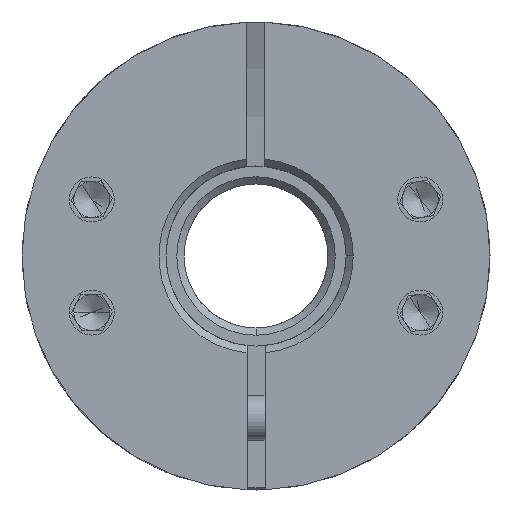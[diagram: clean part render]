
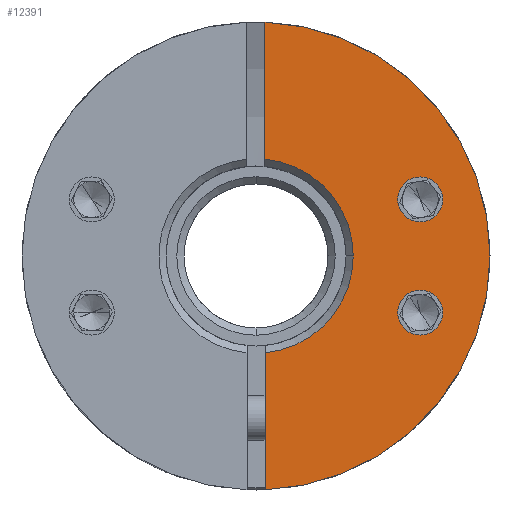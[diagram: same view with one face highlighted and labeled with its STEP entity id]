
A CAD part, front view. The second image highlights one B-rep face of the part: STEP entity #12391.
In plain terms, the highlighted planar face has unit normal (0, -1, 0).
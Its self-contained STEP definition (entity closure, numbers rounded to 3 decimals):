
#756 = CARTESIAN_POINT ( 'NONE',  ( 1.755, -26.289, 0. ) ) ;
#816 = EDGE_CURVE ( 'NONE', #1318, #8638, #4833, .T. ) ;
#1007 = DIRECTION ( 'NONE',  ( 1., 0., 0. ) ) ;
#1069 = CARTESIAN_POINT ( 'NONE',  ( 10.88, -26.289, 3.142 ) ) ;
#1318 = VERTEX_POINT ( 'NONE', #18703 ) ;
#1516 = ORIENTED_EDGE ( 'NONE', *, *, #11190, .T. ) ;
#1548 = CARTESIAN_POINT ( 'NONE',  ( 10.88, -26.289, 3.142 ) ) ;
#1640 = EDGE_CURVE ( 'NONE', #9344, #5680, #8972, .T. ) ;
#1651 = CARTESIAN_POINT ( 'NONE',  ( 2.255, -26.289, 12.99 ) ) ;
#2149 = ORIENTED_EDGE ( 'NONE', *, *, #1640, .T. ) ;
#2324 = LINE ( 'NONE', #3004, #15689 ) ;
#2522 = ORIENTED_EDGE ( 'NONE', *, *, #17484, .T. ) ;
#2557 = DIRECTION ( 'NONE',  ( 0., -1., 0. ) ) ;
#2646 = EDGE_CURVE ( 'NONE', #21417, #13865, #22264, .T. ) ;
#2771 = DIRECTION ( 'NONE',  ( 0., 1., 0. ) ) ;
#2962 = PLANE ( 'NONE',  #12341 ) ;
#3004 = CARTESIAN_POINT ( 'NONE',  ( 2.255, -26.289, 5. ) ) ;
#3005 = EDGE_CURVE ( 'NONE', #4255, #1318, #11658, .T. ) ;
#3306 = CIRCLE ( 'NONE', #16963, 1.25 ) ;
#3716 = CARTESIAN_POINT ( 'NONE',  ( 1.755, -26.289, 0. ) ) ;
#4004 = CARTESIAN_POINT ( 'NONE',  ( 9.63, -26.289, -3.142 ) ) ;
#4255 = VERTEX_POINT ( 'NONE', #9259 ) ;
#4657 = ORIENTED_EDGE ( 'NONE', *, *, #816, .T. ) ;
#4833 = CIRCLE ( 'NONE', #9599, 13. ) ;
#5484 = AXIS2_PLACEMENT_3D ( 'NONE', #3716, #16144, #5510 ) ;
#5510 = DIRECTION ( 'NONE',  ( 1., 0., 0. ) ) ;
#5563 = EDGE_CURVE ( 'NONE', #5680, #9344, #22719, .T. ) ;
#5680 = VERTEX_POINT ( 'NONE', #20971 ) ;
#5897 = CARTESIAN_POINT ( 'NONE',  ( 14.755, -26.289, 0. ) ) ;
#6070 = DIRECTION ( 'NONE',  ( 1., 0., 0. ) ) ;
#6650 = CARTESIAN_POINT ( 'NONE',  ( 7.155, -26.289, 0. ) ) ;
#6780 = ORIENTED_EDGE ( 'NONE', *, *, #3005, .T. ) ;
#6954 = VECTOR ( 'NONE', #22379, 1000. ) ;
#7236 = DIRECTION ( 'NONE',  ( 1., 0., 0. ) ) ;
#7238 = DIRECTION ( 'NONE',  ( 0., 1., 0. ) ) ;
#8203 = AXIS2_PLACEMENT_3D ( 'NONE', #11007, #7238, #21426 ) ;
#8432 = CARTESIAN_POINT ( 'NONE',  ( 2.255, -26.289, 5.377 ) ) ;
#8638 = VERTEX_POINT ( 'NONE', #5897 ) ;
#8940 = VERTEX_POINT ( 'NONE', #6650 ) ;
#8941 = CARTESIAN_POINT ( 'NONE',  ( 1.755, -26.289, 0. ) ) ;
#8972 = CIRCLE ( 'NONE', #20912, 1.25 ) ;
#9259 = CARTESIAN_POINT ( 'NONE',  ( 2.255, -26.289, -5.377 ) ) ;
#9344 = VERTEX_POINT ( 'NONE', #21502 ) ;
#9599 = AXIS2_PLACEMENT_3D ( 'NONE', #756, #2557, #16853 ) ;
#10024 = DIRECTION ( 'NONE',  ( 0., 1., 0. ) ) ;
#10095 = EDGE_CURVE ( 'NONE', #8638, #10567, #19445, .T. ) ;
#10246 = EDGE_LOOP ( 'NONE', ( #2522, #1516, #22039, #6780, #4657, #15070 ) ) ;
#10510 = DIRECTION ( 'NONE',  ( 0., 1., 0. ) ) ;
#10567 = VERTEX_POINT ( 'NONE', #1651 ) ;
#11007 = CARTESIAN_POINT ( 'NONE',  ( 1.755, -26.289, 0. ) ) ;
#11190 = EDGE_CURVE ( 'NONE', #11676, #8940, #11340, .T. ) ;
#11340 = CIRCLE ( 'NONE', #5484, 5.4 ) ;
#11614 = EDGE_LOOP ( 'NONE', ( #12069, #2149 ) ) ;
#11658 = LINE ( 'NONE', #15101, #6954 ) ;
#11676 = VERTEX_POINT ( 'NONE', #8432 ) ;
#12069 = ORIENTED_EDGE ( 'NONE', *, *, #5563, .T. ) ;
#12341 = AXIS2_PLACEMENT_3D ( 'NONE', #22555, #22477, #1007 ) ;
#12391 = ADVANCED_FACE ( 'NONE', ( #12831, #17545, #14214 ), #2962, .T. ) ;
#12831 = FACE_OUTER_BOUND ( 'NONE', #10246, .T. ) ;
#13237 = EDGE_CURVE ( 'NONE', #8940, #4255, #21948, .T. ) ;
#13865 = VERTEX_POINT ( 'NONE', #4004 ) ;
#14017 = DIRECTION ( 'NONE',  ( 0., 1., 0. ) ) ;
#14214 = FACE_BOUND ( 'NONE', #19219, .T. ) ;
#15070 = ORIENTED_EDGE ( 'NONE', *, *, #10095, .T. ) ;
#15101 = CARTESIAN_POINT ( 'NONE',  ( 2.255, -26.289, 5. ) ) ;
#15263 = ORIENTED_EDGE ( 'NONE', *, *, #19506, .T. ) ;
#15581 = AXIS2_PLACEMENT_3D ( 'NONE', #8941, #16073, #7236 ) ;
#15689 = VECTOR ( 'NONE', #20725, 1000. ) ;
#15786 = ORIENTED_EDGE ( 'NONE', *, *, #2646, .T. ) ;
#15950 = DIRECTION ( 'NONE',  ( 1., 0., 0. ) ) ;
#16073 = DIRECTION ( 'NONE',  ( 0., -1., 0. ) ) ;
#16144 = DIRECTION ( 'NONE',  ( 0., 1., 0. ) ) ;
#16853 = DIRECTION ( 'NONE',  ( 1., 0., 0. ) ) ;
#16963 = AXIS2_PLACEMENT_3D ( 'NONE', #22286, #2771, #6070 ) ;
#17484 = EDGE_CURVE ( 'NONE', #10567, #11676, #2324, .T. ) ;
#17545 = FACE_BOUND ( 'NONE', #11614, .T. ) ;
#18464 = AXIS2_PLACEMENT_3D ( 'NONE', #1069, #10024, #20746 ) ;
#18703 = CARTESIAN_POINT ( 'NONE',  ( 2.255, -26.289, -12.99 ) ) ;
#19219 = EDGE_LOOP ( 'NONE', ( #15263, #15786 ) ) ;
#19445 = CIRCLE ( 'NONE', #15581, 13. ) ;
#19506 = EDGE_CURVE ( 'NONE', #13865, #21417, #3306, .T. ) ;
#20725 = DIRECTION ( 'NONE',  ( 0., 0., -1. ) ) ;
#20746 = DIRECTION ( 'NONE',  ( 1., 0., 0. ) ) ;
#20912 = AXIS2_PLACEMENT_3D ( 'NONE', #1548, #10510, #22873 ) ;
#20971 = CARTESIAN_POINT ( 'NONE',  ( 9.63, -26.289, 3.142 ) ) ;
#21379 = CARTESIAN_POINT ( 'NONE',  ( 10.88, -26.289, -3.142 ) ) ;
#21417 = VERTEX_POINT ( 'NONE', #22180 ) ;
#21426 = DIRECTION ( 'NONE',  ( 1., 0., 0. ) ) ;
#21502 = CARTESIAN_POINT ( 'NONE',  ( 12.13, -26.289, 3.142 ) ) ;
#21948 = CIRCLE ( 'NONE', #8203, 5.4 ) ;
#22039 = ORIENTED_EDGE ( 'NONE', *, *, #13237, .T. ) ;
#22180 = CARTESIAN_POINT ( 'NONE',  ( 12.13, -26.289, -3.142 ) ) ;
#22264 = CIRCLE ( 'NONE', #23047, 1.25 ) ;
#22286 = CARTESIAN_POINT ( 'NONE',  ( 10.88, -26.289, -3.142 ) ) ;
#22379 = DIRECTION ( 'NONE',  ( 0., 0., -1. ) ) ;
#22477 = DIRECTION ( 'NONE',  ( 0., -1., 0. ) ) ;
#22555 = CARTESIAN_POINT ( 'NONE',  ( 1.755, -26.289, 0. ) ) ;
#22719 = CIRCLE ( 'NONE', #18464, 1.25 ) ;
#22873 = DIRECTION ( 'NONE',  ( 1., 0., 0. ) ) ;
#23047 = AXIS2_PLACEMENT_3D ( 'NONE', #21379, #14017, #15950 ) ;
